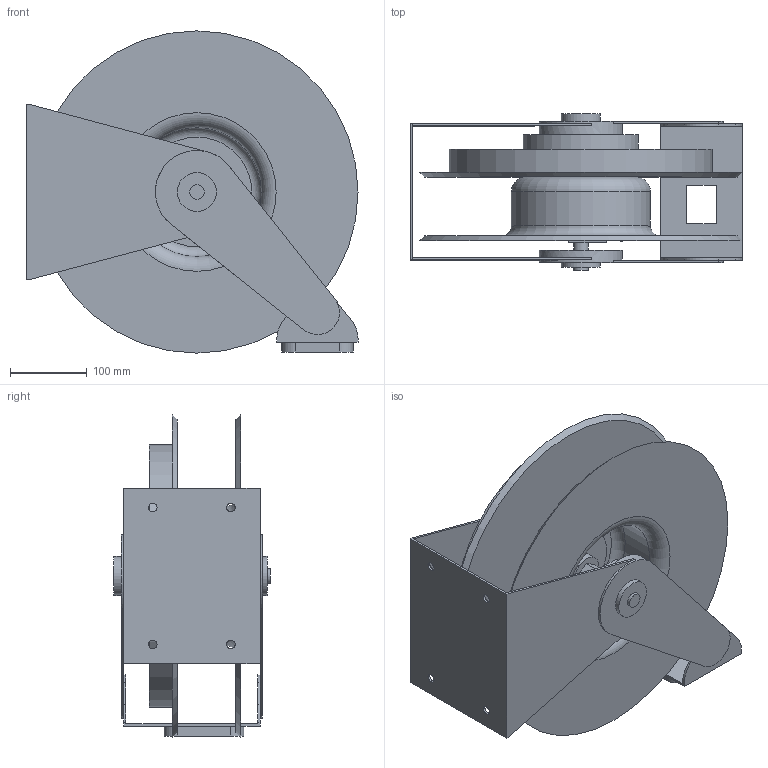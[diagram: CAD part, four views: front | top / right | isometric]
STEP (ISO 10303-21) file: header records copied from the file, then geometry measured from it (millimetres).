
FILE_DESCRIPTION( ( 'Unknown' ), '1' );
FILE_NAME( 'J:/NPD/RE 12893 3D WEB MODELS/DP7000 SERIES/DP7000 OXP NARROW.stp', 'Unknown', ( 'Unknown' ), ( 'Unknown' ), 'PSStep 10.1', 'Unknown', ' ' );
FILE_SCHEMA( ( 'AUTOMOTIVE_DESIGN { 1 0 10303 214 1 1 1 1 }' ) );
Length unit declared in the file: millimetre
Products named in the file (1): 1
Bounding box: 431.8 x 203.2 x 419.1 mm (x, y, z)
Volume: 6115783.7 mm3; surface area: 1017269.7 mm2
Topology: 1 solids, 1 shells, 120 faces, 290 edges, 187 vertices
Faces by surface type: plane 81, cylinder 30, torus 5, cone 4
Full cylindrical faces by diameter (mm): 11.113 x4, 18.923 x2, 19.05 x2, 44.45 x1, 50.8 x2, 107.95 x3, 149.809 x1, 168.148 x1, 180.848 x1, 342.163 x1
Entity records: 4264 total; most frequent: DIRECTION 578, CARTESIAN_POINT 551, ORIENTED_EDGE 506, EDGE_CURVE 253, AXIS2_PLACEMENT_3D 204, VERTEX_POINT 177, EDGE_LOOP 176, LINE 170
